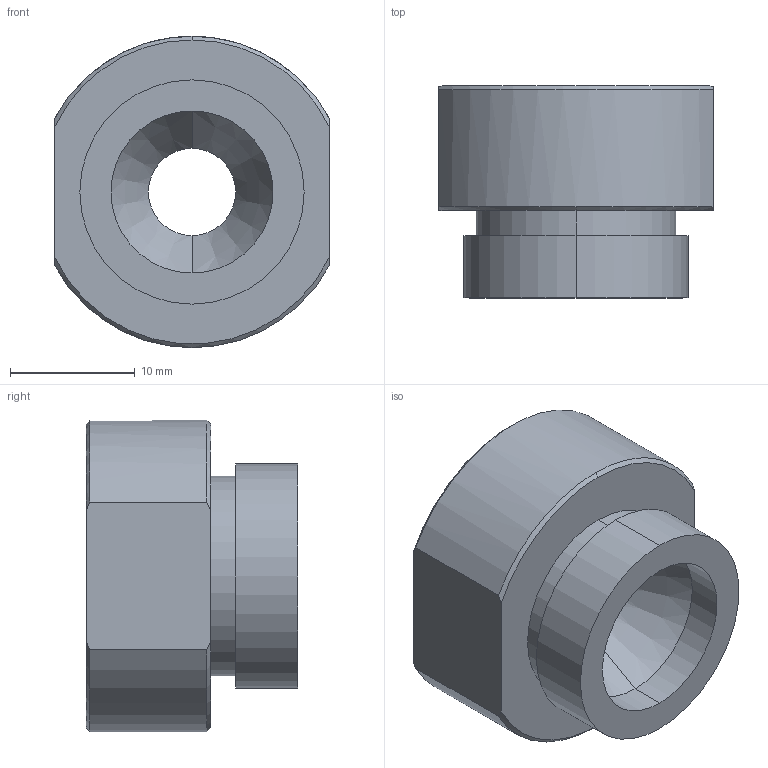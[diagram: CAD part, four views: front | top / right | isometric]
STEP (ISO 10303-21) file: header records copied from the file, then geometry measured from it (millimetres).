
FILE_DESCRIPTION (( 'STEP AP203' ), '1' );
FILE_NAME ('SW-PN-C6A.STEP', '2022-04-06T02:19:52', ( '' ), ( '' ), 'SwSTEP 2.0', 'SolidWorks 2015', '' );
FILE_SCHEMA (( 'CONFIG_CONTROL_DESIGN' ));
Length unit declared in the file: millimetre
Products named in the file (2): SW-PN-C6A
Bounding box: 22 x 17 x 25 mm (x, y, z)
Volume: 5198.3 mm3; surface area: 2505.5 mm2
Topology: 1 solids, 1 shells, 28 faces, 64 edges, 41 vertices
Faces by surface type: cylinder 11, cone 10, plane 7
Entity records: 968 total; most frequent: CARTESIAN_POINT 159, DIRECTION 149, ORIENTED_EDGE 128, EDGE_CURVE 64, AXIS2_PLACEMENT_3D 63, VERTEX_POINT 41, CIRCLE 33, EDGE_LOOP 33
